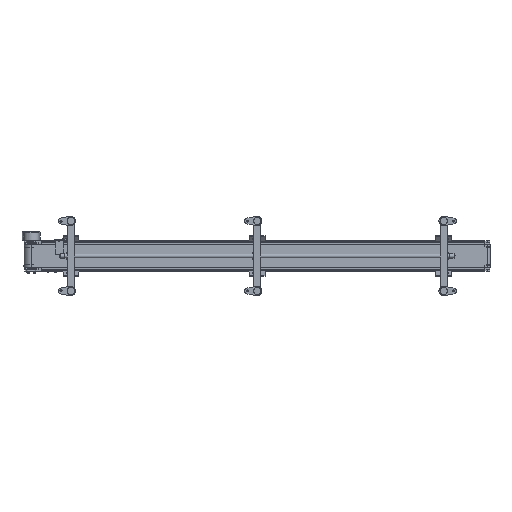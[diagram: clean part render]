
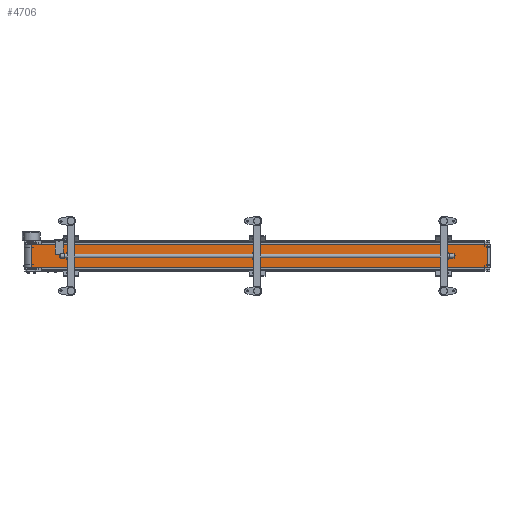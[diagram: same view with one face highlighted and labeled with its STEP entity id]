
A CAD part, front view. The second image highlights one B-rep face of the part: STEP entity #4706.
In plain terms, the highlighted planar face has unit normal (0.021, -1, 0).
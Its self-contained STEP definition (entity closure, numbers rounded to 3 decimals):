
#4706=ADVANCED_FACE('',(#30576),#30575,.F.);
#30575=PLANE('',#46988);
#30576=FACE_OUTER_BOUND('',#46989,.T.);
#46985=CARTESIAN_POINT('',(2993.411,-26.584,-85.));
#46986=DIRECTION('',(-0.021,1.,0.));
#46987=DIRECTION('',(-1.,-0.021,0.));
#46988=AXIS2_PLACEMENT_3D('',#46985,#46986,#46987);
#46989=EDGE_LOOP('',(#60381,#60382,#60383,#60384));
#60381=ORIENTED_EDGE('',*,*,#67533,.T.);
#60382=ORIENTED_EDGE('',*,*,#67540,.F.);
#60383=ORIENTED_EDGE('',*,*,#67527,.F.);
#60384=ORIENTED_EDGE('',*,*,#67541,.T.);
#67527=EDGE_CURVE('',#109929,#109914,#109936,.T.);
#67533=EDGE_CURVE('',#109978,#109970,#109979,.T.);
#67540=EDGE_CURVE('',#109914,#109970,#110026,.T.);
#67541=EDGE_CURVE('',#109929,#109978,#110032,.T.);
#109914=VERTEX_POINT('',#138386);
#109929=VERTEX_POINT('',#138396);
#109936=LINE('',#138401,#138402);
#109970=VERTEX_POINT('',#138422);
#109978=VERTEX_POINT('',#138428);
#109979=LINE('',#138429,#138430);
#110026=LINE('',#138458,#138459);
#110032=LINE('',#138461,#138462);
#138386=CARTESIAN_POINT('',(2983.414,-26.797,75.));
#138396=CARTESIAN_POINT('',(45.972,-89.24,75.));
#138401=CARTESIAN_POINT('',(45.972,-89.24,75.));
#138402=VECTOR('',#138403,2938.105);
#138403=DIRECTION('',(1.,0.021,0.));
#138422=CARTESIAN_POINT('',(2983.414,-26.797,-75.));
#138428=CARTESIAN_POINT('',(45.972,-89.24,-75.));
#138429=CARTESIAN_POINT('',(45.972,-89.24,-75.));
#138430=VECTOR('',#138431,2938.105);
#138431=DIRECTION('',(1.,0.021,0.));
#138458=CARTESIAN_POINT('',(2983.414,-26.797,75.));
#138459=VECTOR('',#138460,150.);
#138460=DIRECTION('',(0.,0.,-1.));
#138461=CARTESIAN_POINT('',(45.972,-89.24,75.));
#138462=VECTOR('',#138463,150.);
#138463=DIRECTION('',(0.,0.,-1.));
